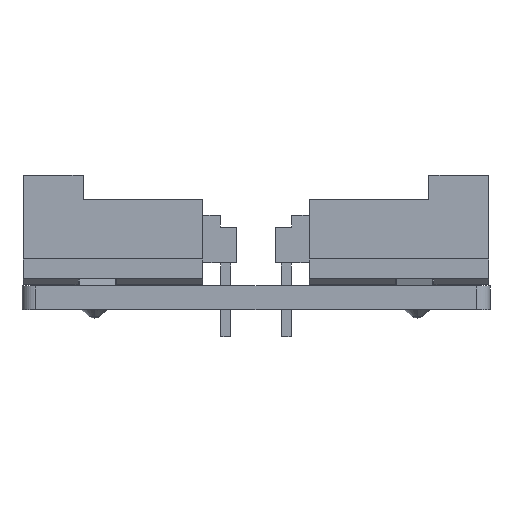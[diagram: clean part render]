
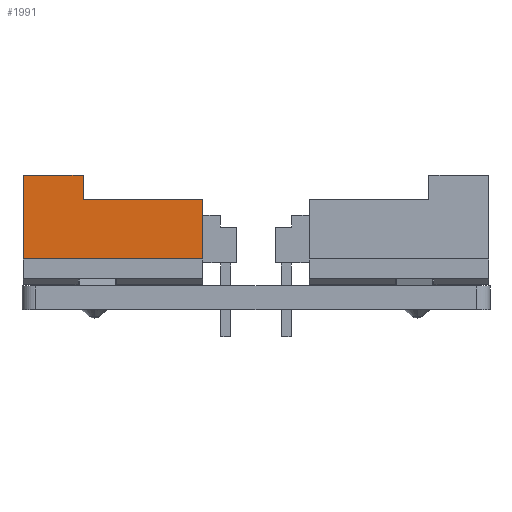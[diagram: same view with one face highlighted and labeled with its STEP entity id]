
A CAD part, front view. The second image highlights one B-rep face of the part: STEP entity #1991.
In plain terms, the highlighted planar face has unit normal (0, -1, 0) as drawn and (1, 0, 0) by its records, which use the part's own axes.
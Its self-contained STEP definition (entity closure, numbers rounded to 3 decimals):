
#157 = VERTEX_POINT('',#158);
#158 = CARTESIAN_POINT('',(3.556,-1.27,-5.715));
#164 = EDGE_CURVE('',#157,#165,#167,.T.);
#165 = VERTEX_POINT('',#166);
#166 = CARTESIAN_POINT('',(3.556,2.54,-5.715));
#167 = LINE('',#168,#169);
#168 = CARTESIAN_POINT('',(3.556,-1.27,-5.715));
#169 = VECTOR('',#170,1.);
#170 = DIRECTION('',(0.,1.,0.));
#1231 = VERTEX_POINT('',#1232);
#1232 = CARTESIAN_POINT('',(3.556,4.064,5.715));
#1238 = EDGE_CURVE('',#1239,#1231,#1241,.T.);
#1239 = VERTEX_POINT('',#1240);
#1240 = CARTESIAN_POINT('',(3.556,-1.27,5.715));
#1241 = LINE('',#1242,#1243);
#1242 = CARTESIAN_POINT('',(3.556,-1.27,5.715));
#1243 = VECTOR('',#1244,1.);
#1244 = DIRECTION('',(0.,1.,0.));
#1597 = EDGE_CURVE('',#1598,#165,#1600,.T.);
#1598 = VERTEX_POINT('',#1599);
#1599 = CARTESIAN_POINT('',(3.556,2.54,1.905));
#1600 = LINE('',#1601,#1602);
#1601 = CARTESIAN_POINT('',(3.556,2.54,1.905));
#1602 = VECTOR('',#1603,1.);
#1603 = DIRECTION('',(0.,0.,-1.));
#1846 = EDGE_CURVE('',#1598,#1847,#1849,.T.);
#1847 = VERTEX_POINT('',#1848);
#1848 = CARTESIAN_POINT('',(3.556,4.064,1.905));
#1849 = LINE('',#1850,#1851);
#1850 = CARTESIAN_POINT('',(3.556,2.54,1.905));
#1851 = VECTOR('',#1852,1.);
#1852 = DIRECTION('',(0.,1.,0.));
#1941 = EDGE_CURVE('',#1847,#1231,#1942,.T.);
#1942 = LINE('',#1943,#1944);
#1943 = CARTESIAN_POINT('',(3.556,4.064,1.905));
#1944 = VECTOR('',#1945,1.);
#1945 = DIRECTION('',(0.,0.,1.));
#1991 = ADVANCED_FACE('',(#1992),#2005,.T.);
#1992 = FACE_BOUND('',#1993,.F.);
#1993 = EDGE_LOOP('',(#1994,#1995,#1996,#1997,#1998,#2004));
#1994 = ORIENTED_EDGE('',*,*,#1941,.F.);
#1995 = ORIENTED_EDGE('',*,*,#1846,.F.);
#1996 = ORIENTED_EDGE('',*,*,#1597,.T.);
#1997 = ORIENTED_EDGE('',*,*,#164,.F.);
#1998 = ORIENTED_EDGE('',*,*,#1999,.T.);
#1999 = EDGE_CURVE('',#157,#1239,#2000,.T.);
#2000 = LINE('',#2001,#2002);
#2001 = CARTESIAN_POINT('',(3.556,-1.27,-5.715));
#2002 = VECTOR('',#2003,1.);
#2003 = DIRECTION('',(0.,0.,1.));
#2004 = ORIENTED_EDGE('',*,*,#1238,.T.);
#2005 = PLANE('',#2006);
#2006 = AXIS2_PLACEMENT_3D('',#2007,#2008,#2009);
#2007 = CARTESIAN_POINT('',(3.556,-1.27,-5.715));
#2008 = DIRECTION('',(1.,0.,0.));
#2009 = DIRECTION('',(-0.,1.,0.));
